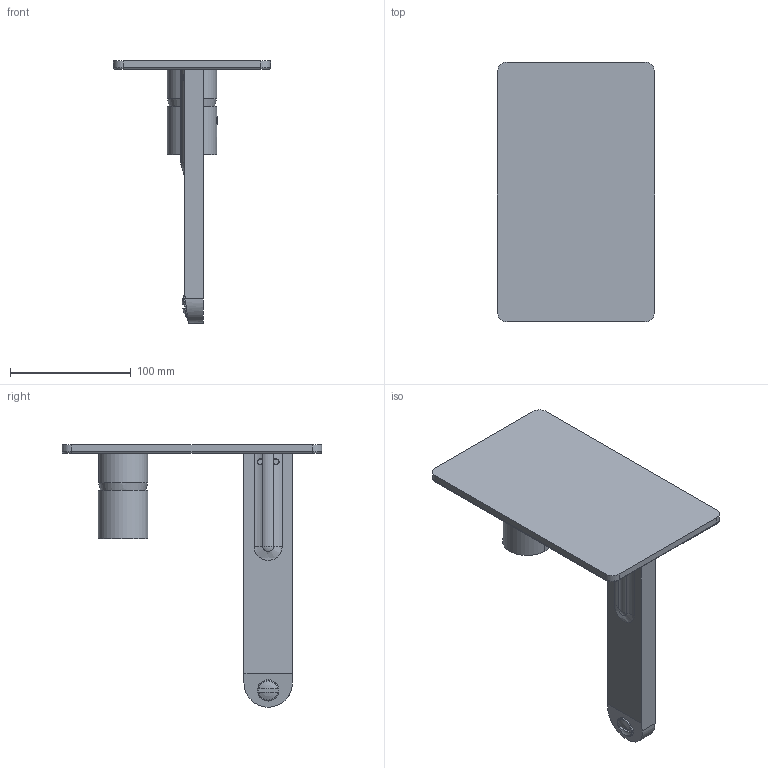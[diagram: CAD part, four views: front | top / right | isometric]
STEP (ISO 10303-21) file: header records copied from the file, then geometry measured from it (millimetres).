
FILE_DESCRIPTION((''),'2;1');
FILE_NAME('F4201LX5','2013-11-20T',('ivanv'),(''),'PRO/ENGINEER BY PARAMETRIC TECHNOLOGY CORPORATION, 2012130','PRO/ENGINEER BY PARAMETRIC TECHNOLOGY CORPORATION, 2012130','');
FILE_SCHEMA(('CONFIG_CONTROL_DESIGN'));
Length unit declared in the file: millimetre
Products named in the file (1): F4201LX5
Bounding box: 130 x 215 x 217 mm (x, y, z)
Volume: 389728.1 mm3; surface area: 97723.8 mm2
Topology: 1 solids, 2 shells, 90 faces, 206 edges, 128 vertices
Faces by surface type: cylinder 32, plane 30, cone 10, torus 8, sphere 7, bspline 3
Entity records: 2989 total; most frequent: CARTESIAN_POINT 916, DIRECTION 446, ORIENTED_EDGE 404, EDGE_CURVE 202, AXIS2_PLACEMENT_3D 184, VERTEX_POINT 128, EDGE_LOOP 102, CIRCLE 97
